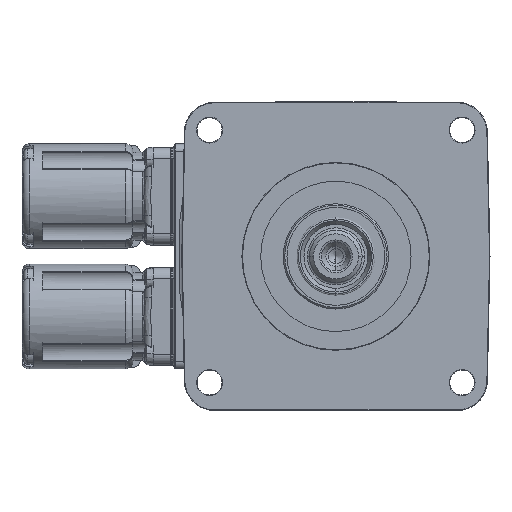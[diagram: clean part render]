
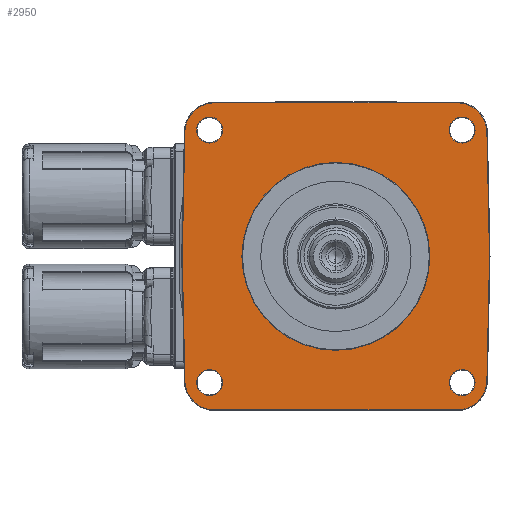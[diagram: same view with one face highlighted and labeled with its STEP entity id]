
A CAD part, left-side view. The second image highlights one B-rep face of the part: STEP entity #2950.
In plain terms, the highlighted planar face has unit normal (-1, 0, 0) as drawn and (0, 0, 1) by its records, which use the part's own axes.
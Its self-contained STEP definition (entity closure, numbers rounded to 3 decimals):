
#282=CARTESIAN_POINT('',(0.,0.,8.));
#283=DIRECTION('',(0.,0.,-1.));
#284=DIRECTION('',(0.,1.,0.));
#285=AXIS2_PLACEMENT_3D('',#282,#283,#284);
#287=CARTESIAN_POINT('',(0.,0.,8.));
#288=DIRECTION('',(0.,0.,1.));
#289=DIRECTION('',(0.,1.,0.));
#290=AXIS2_PLACEMENT_3D('',#287,#288,#289);
#292=DIRECTION('',(1.,0.021,0.));
#293=VECTOR('',#292,33.172);
#294=CARTESIAN_POINT('',(0.,-40.866,8.));
#295=LINE('',#294,#293);
#296=DIRECTION('',(1.,-0.021,0.));
#297=VECTOR('',#296,33.172);
#298=CARTESIAN_POINT('',(-33.165,-40.171,8.));
#299=LINE('',#298,#297);
#300=CARTESIAN_POINT('',(-33.,-32.307,8.));
#301=DIRECTION('',(0.,0.,-1.));
#302=DIRECTION('',(-0.021,-1.,0.));
#303=AXIS2_PLACEMENT_3D('',#300,#301,#302);
#305=DIRECTION('',(0.,-1.,0.));
#306=VECTOR('',#305,64.614);
#307=CARTESIAN_POINT('',(-40.866,32.307,8.));
#308=LINE('',#307,#306);
#309=CARTESIAN_POINT('',(-33.,32.307,8.));
#310=DIRECTION('',(0.,0.,-1.));
#311=DIRECTION('',(-1.,0.,0.));
#312=AXIS2_PLACEMENT_3D('',#309,#310,#311);
#314=DIRECTION('',(-1.,-0.021,0.));
#315=VECTOR('',#314,33.172);
#316=CARTESIAN_POINT('',(0.,40.866,8.));
#317=LINE('',#316,#315);
#318=DIRECTION('',(-1.,0.021,0.));
#319=VECTOR('',#318,33.172);
#320=CARTESIAN_POINT('',(33.165,40.171,8.));
#321=LINE('',#320,#319);
#322=CARTESIAN_POINT('',(33.,32.307,8.));
#323=DIRECTION('',(0.,0.,-1.));
#324=DIRECTION('',(0.021,1.,0.));
#325=AXIS2_PLACEMENT_3D('',#322,#323,#324);
#327=DIRECTION('',(0.,1.,0.));
#328=VECTOR('',#327,64.614);
#329=CARTESIAN_POINT('',(40.866,-32.307,8.));
#330=LINE('',#329,#328);
#331=CARTESIAN_POINT('',(33.,-32.307,8.));
#332=DIRECTION('',(0.,0.,-1.));
#333=DIRECTION('',(1.,0.,0.));
#334=AXIS2_PLACEMENT_3D('',#331,#332,#333);
#336=CARTESIAN_POINT('',(33.588,33.588,8.));
#337=DIRECTION('',(0.,0.,-1.));
#338=DIRECTION('',(1.,0.,0.));
#339=AXIS2_PLACEMENT_3D('',#336,#337,#338);
#341=CARTESIAN_POINT('',(33.588,33.588,8.));
#342=DIRECTION('',(0.,0.,-1.));
#343=DIRECTION('',(-1.,0.,0.));
#344=AXIS2_PLACEMENT_3D('',#341,#342,#343);
#346=CARTESIAN_POINT('',(-33.588,33.588,8.));
#347=DIRECTION('',(0.,0.,-1.));
#348=DIRECTION('',(1.,0.,0.));
#349=AXIS2_PLACEMENT_3D('',#346,#347,#348);
#351=CARTESIAN_POINT('',(-33.588,33.588,8.));
#352=DIRECTION('',(0.,0.,-1.));
#353=DIRECTION('',(-1.,0.,0.));
#354=AXIS2_PLACEMENT_3D('',#351,#352,#353);
#356=CARTESIAN_POINT('',(-33.588,-33.588,8.));
#357=DIRECTION('',(0.,0.,-1.));
#358=DIRECTION('',(1.,0.,0.));
#359=AXIS2_PLACEMENT_3D('',#356,#357,#358);
#361=CARTESIAN_POINT('',(-33.588,-33.588,8.));
#362=DIRECTION('',(0.,0.,-1.));
#363=DIRECTION('',(-1.,0.,0.));
#364=AXIS2_PLACEMENT_3D('',#361,#362,#363);
#366=CARTESIAN_POINT('',(33.588,-33.588,8.));
#367=DIRECTION('',(0.,0.,-1.));
#368=DIRECTION('',(1.,0.,0.));
#369=AXIS2_PLACEMENT_3D('',#366,#367,#368);
#371=CARTESIAN_POINT('',(33.588,-33.588,8.));
#372=DIRECTION('',(0.,0.,-1.));
#373=DIRECTION('',(-1.,0.,0.));
#374=AXIS2_PLACEMENT_3D('',#371,#372,#373);
#2300=CARTESIAN_POINT('',(0.,25.,8.));
#2301=CARTESIAN_POINT('',(0.,-25.,8.));
#2302=VERTEX_POINT('',#2300);
#2303=VERTEX_POINT('',#2301);
#2372=CARTESIAN_POINT('',(0.,-40.866,8.));
#2373=CARTESIAN_POINT('',(33.165,-40.171,8.));
#2374=VERTEX_POINT('',#2372);
#2375=VERTEX_POINT('',#2373);
#2376=CARTESIAN_POINT('',(40.866,-32.307,8.));
#2377=VERTEX_POINT('',#2376);
#2378=CARTESIAN_POINT('',(40.866,32.307,8.));
#2379=VERTEX_POINT('',#2378);
#2380=CARTESIAN_POINT('',(33.165,40.171,8.));
#2381=VERTEX_POINT('',#2380);
#2382=CARTESIAN_POINT('',(0.,40.866,8.));
#2383=VERTEX_POINT('',#2382);
#2384=CARTESIAN_POINT('',(-33.165,40.171,8.));
#2385=VERTEX_POINT('',#2384);
#2386=CARTESIAN_POINT('',(-40.866,32.307,8.));
#2387=VERTEX_POINT('',#2386);
#2388=CARTESIAN_POINT('',(-40.866,-32.307,8.));
#2389=VERTEX_POINT('',#2388);
#2390=CARTESIAN_POINT('',(-33.165,-40.171,8.));
#2391=VERTEX_POINT('',#2390);
#2392=CARTESIAN_POINT('',(37.022,33.588,8.));
#2393=CARTESIAN_POINT('',(30.154,33.588,8.));
#2394=VERTEX_POINT('',#2392);
#2395=VERTEX_POINT('',#2393);
#2396=CARTESIAN_POINT('',(-30.154,33.588,8.));
#2397=CARTESIAN_POINT('',(-37.022,33.588,8.));
#2398=VERTEX_POINT('',#2396);
#2399=VERTEX_POINT('',#2397);
#2400=CARTESIAN_POINT('',(-30.154,-33.588,8.));
#2401=CARTESIAN_POINT('',(-37.022,-33.588,8.));
#2402=VERTEX_POINT('',#2400);
#2403=VERTEX_POINT('',#2401);
#2404=CARTESIAN_POINT('',(37.022,-33.588,8.));
#2405=CARTESIAN_POINT('',(30.154,-33.588,8.));
#2406=VERTEX_POINT('',#2404);
#2407=VERTEX_POINT('',#2405);
#2894=CARTESIAN_POINT('',(0.,0.,8.));
#2895=DIRECTION('',(0.,0.,1.));
#2896=DIRECTION('',(0.,1.,0.));
#2897=AXIS2_PLACEMENT_3D('',#2894,#2895,#2896);
#2898=PLANE('',#2897);
#2900=ORIENTED_EDGE('',*,*,#2899,.F.);
#2902=ORIENTED_EDGE('',*,*,#2901,.F.);
#2904=ORIENTED_EDGE('',*,*,#2903,.T.);
#2906=ORIENTED_EDGE('',*,*,#2905,.F.);
#2907=ORIENTED_EDGE('',*,*,#2884,.T.);
#2909=ORIENTED_EDGE('',*,*,#2908,.F.);
#2911=ORIENTED_EDGE('',*,*,#2910,.F.);
#2913=ORIENTED_EDGE('',*,*,#2912,.T.);
#2915=ORIENTED_EDGE('',*,*,#2914,.F.);
#2917=ORIENTED_EDGE('',*,*,#2916,.T.);
#2918=EDGE_LOOP('',(#2900,#2902,#2904,#2906,#2907,#2909,#2911,#2913,#2915,
#2917));
#2919=FACE_OUTER_BOUND('',#2918,.F.);
#2921=ORIENTED_EDGE('',*,*,#2920,.F.);
#2923=ORIENTED_EDGE('',*,*,#2922,.T.);
#2924=EDGE_LOOP('',(#2921,#2923));
#2925=FACE_BOUND('',#2924,.F.);
#2927=ORIENTED_EDGE('',*,*,#2926,.F.);
#2929=ORIENTED_EDGE('',*,*,#2928,.F.);
#2930=EDGE_LOOP('',(#2927,#2929));
#2931=FACE_BOUND('',#2930,.F.);
#2933=ORIENTED_EDGE('',*,*,#2932,.F.);
#2935=ORIENTED_EDGE('',*,*,#2934,.F.);
#2936=EDGE_LOOP('',(#2933,#2935));
#2937=FACE_BOUND('',#2936,.F.);
#2939=ORIENTED_EDGE('',*,*,#2938,.F.);
#2941=ORIENTED_EDGE('',*,*,#2940,.F.);
#2942=EDGE_LOOP('',(#2939,#2941));
#2943=FACE_BOUND('',#2942,.F.);
#2945=ORIENTED_EDGE('',*,*,#2944,.F.);
#2947=ORIENTED_EDGE('',*,*,#2946,.F.);
#2948=EDGE_LOOP('',(#2945,#2947));
#2949=FACE_BOUND('',#2948,.F.);
#2950=ADVANCED_FACE('',(#2919,#2925,#2931,#2937,#2943,#2949),#2898,.T.);
#286=CIRCLE('',#285,25.);
#291=CIRCLE('',#290,25.);
#304=CIRCLE('',#303,7.866);
#313=CIRCLE('',#312,7.866);
#326=CIRCLE('',#325,7.866);
#335=CIRCLE('',#334,7.866);
#340=CIRCLE('',#339,3.434);
#345=CIRCLE('',#344,3.434);
#350=CIRCLE('',#349,3.434);
#355=CIRCLE('',#354,3.434);
#360=CIRCLE('',#359,3.434);
#365=CIRCLE('',#364,3.434);
#370=CIRCLE('',#369,3.434);
#375=CIRCLE('',#374,3.434);
#2884=EDGE_CURVE('',#2387,#2385,#313,.T.);
#2899=EDGE_CURVE('',#2374,#2375,#295,.T.);
#2901=EDGE_CURVE('',#2391,#2374,#299,.T.);
#2903=EDGE_CURVE('',#2391,#2389,#304,.T.);
#2905=EDGE_CURVE('',#2387,#2389,#308,.T.);
#2908=EDGE_CURVE('',#2383,#2385,#317,.T.);
#2910=EDGE_CURVE('',#2381,#2383,#321,.T.);
#2912=EDGE_CURVE('',#2381,#2379,#326,.T.);
#2914=EDGE_CURVE('',#2377,#2379,#330,.T.);
#2916=EDGE_CURVE('',#2377,#2375,#335,.T.);
#2920=EDGE_CURVE('',#2302,#2303,#286,.T.);
#2922=EDGE_CURVE('',#2302,#2303,#291,.T.);
#2926=EDGE_CURVE('',#2394,#2395,#340,.T.);
#2928=EDGE_CURVE('',#2395,#2394,#345,.T.);
#2932=EDGE_CURVE('',#2398,#2399,#350,.T.);
#2934=EDGE_CURVE('',#2399,#2398,#355,.T.);
#2938=EDGE_CURVE('',#2402,#2403,#360,.T.);
#2940=EDGE_CURVE('',#2403,#2402,#365,.T.);
#2944=EDGE_CURVE('',#2406,#2407,#370,.T.);
#2946=EDGE_CURVE('',#2407,#2406,#375,.T.);
